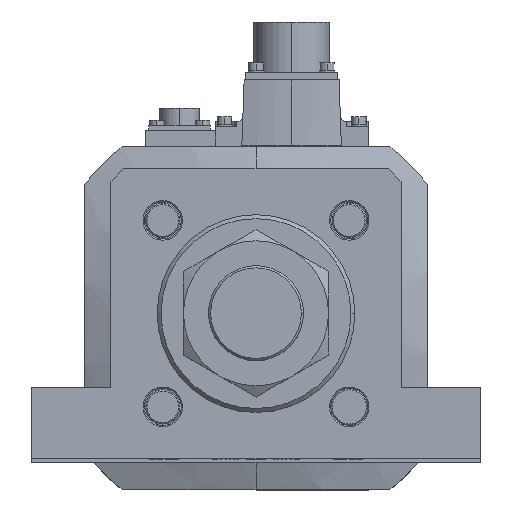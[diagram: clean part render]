
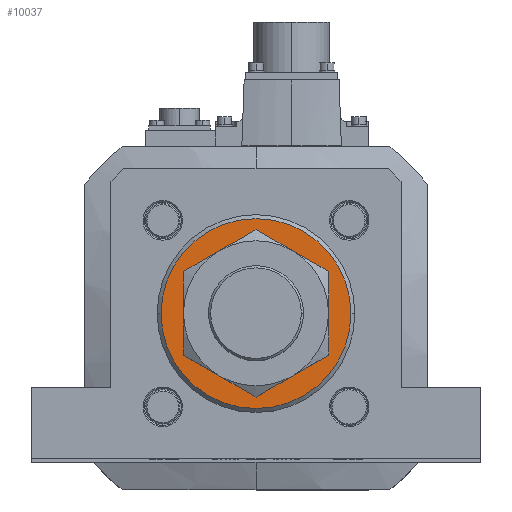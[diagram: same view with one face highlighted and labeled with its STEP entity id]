
A CAD part, top view. The second image highlights one B-rep face of the part: STEP entity #10037.
In plain terms, the highlighted planar face has unit normal (0, 0, 1).
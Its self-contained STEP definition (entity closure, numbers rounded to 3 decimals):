
#354 = AXIS2_PLACEMENT_3D ( 'NONE', #23619, #29573, #29313 ) ;
#2642 = DIRECTION ( 'NONE',  ( 1., 0., 0. ) ) ;
#3706 = AXIS2_PLACEMENT_3D ( 'NONE', #4842, #7572, #28276 ) ;
#3952 = EDGE_LOOP ( 'NONE', ( #30342, #12479 ) ) ;
#4842 = CARTESIAN_POINT ( 'NONE',  ( 0., 0., 746. ) ) ;
#5624 = VERTEX_POINT ( 'NONE', #13877 ) ;
#6427 = ORIENTED_EDGE ( 'NONE', *, *, #18979, .T. ) ;
#6590 = CIRCLE ( 'NONE', #354, 23. ) ;
#7572 = DIRECTION ( 'NONE',  ( 0., 0., -1. ) ) ;
#7869 = VERTEX_POINT ( 'NONE', #15805 ) ;
#8473 = AXIS2_PLACEMENT_3D ( 'NONE', #22154, #25496, #25108 ) ;
#8546 = DIRECTION ( 'NONE',  ( 0., 0., 1. ) ) ;
#8568 = EDGE_CURVE ( 'NONE', #18491, #33514, #28603, .T. ) ;
#9544 = EDGE_CURVE ( 'NONE', #7869, #5624, #25744, .T. ) ;
#10037 = ADVANCED_FACE ( 'NONE', ( #28033, #20164 ), #19708, .T. ) ;
#12479 = ORIENTED_EDGE ( 'NONE', *, *, #22467, .T. ) ;
#13877 = CARTESIAN_POINT ( 'NONE',  ( 36., 0., 746. ) ) ;
#14830 = AXIS2_PLACEMENT_3D ( 'NONE', #20710, #8546, #2642 ) ;
#15129 = CARTESIAN_POINT ( 'NONE',  ( 23., 0., 746. ) ) ;
#15805 = CARTESIAN_POINT ( 'NONE',  ( -36., 0., 746. ) ) ;
#18412 = AXIS2_PLACEMENT_3D ( 'NONE', #33551, #36647, #18969 ) ;
#18491 = VERTEX_POINT ( 'NONE', #15129 ) ;
#18969 = DIRECTION ( 'NONE',  ( 1., 0., 0. ) ) ;
#18979 = EDGE_CURVE ( 'NONE', #33514, #18491, #6590, .T. ) ;
#19708 = PLANE ( 'NONE',  #8473 ) ;
#20164 = FACE_OUTER_BOUND ( 'NONE', #3952, .T. ) ;
#20516 = CARTESIAN_POINT ( 'NONE',  ( -23., 0., 746. ) ) ;
#20710 = CARTESIAN_POINT ( 'NONE',  ( 0., 0., 746. ) ) ;
#22154 = CARTESIAN_POINT ( 'NONE',  ( 0., 0., 746. ) ) ;
#22467 = EDGE_CURVE ( 'NONE', #5624, #7869, #36582, .T. ) ;
#23619 = CARTESIAN_POINT ( 'NONE',  ( 0., 0., 746. ) ) ;
#25108 = DIRECTION ( 'NONE',  ( 1., 0., 0. ) ) ;
#25496 = DIRECTION ( 'NONE',  ( 0., 0., 1. ) ) ;
#25744 = CIRCLE ( 'NONE', #18412, 36. ) ;
#28033 = FACE_BOUND ( 'NONE', #30574, .T. ) ;
#28059 = ORIENTED_EDGE ( 'NONE', *, *, #8568, .T. ) ;
#28276 = DIRECTION ( 'NONE',  ( 1., 0., 0. ) ) ;
#28603 = CIRCLE ( 'NONE', #3706, 23. ) ;
#29313 = DIRECTION ( 'NONE',  ( 1., 0., 0. ) ) ;
#29573 = DIRECTION ( 'NONE',  ( 0., 0., -1. ) ) ;
#30342 = ORIENTED_EDGE ( 'NONE', *, *, #9544, .T. ) ;
#30574 = EDGE_LOOP ( 'NONE', ( #28059, #6427 ) ) ;
#33514 = VERTEX_POINT ( 'NONE', #20516 ) ;
#33551 = CARTESIAN_POINT ( 'NONE',  ( 0., 0., 746. ) ) ;
#36582 = CIRCLE ( 'NONE', #14830, 36. ) ;
#36647 = DIRECTION ( 'NONE',  ( 0., 0., 1. ) ) ;
